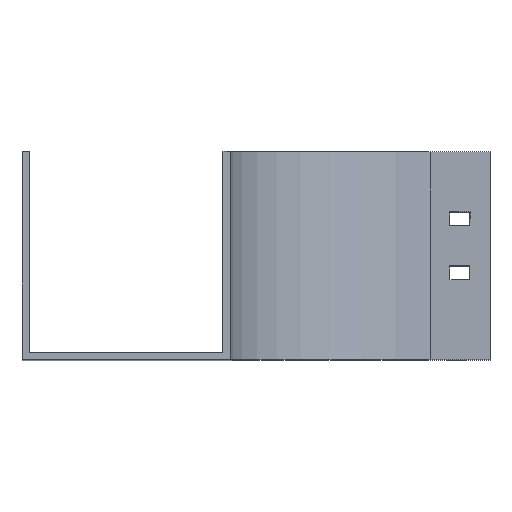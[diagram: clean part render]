
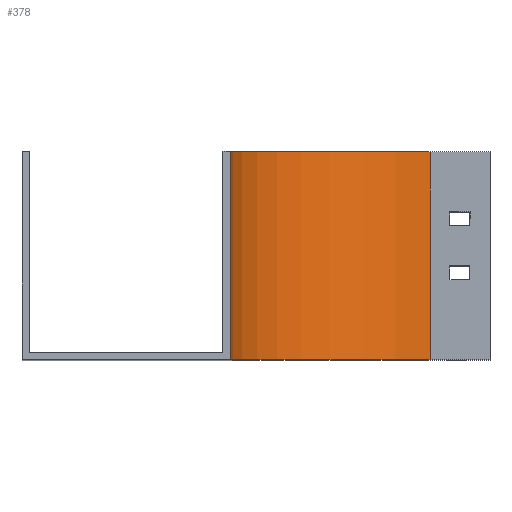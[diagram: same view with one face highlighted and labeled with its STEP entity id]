
A CAD part, top view. The second image highlights one B-rep face of the part: STEP entity #378.
In plain terms, the highlighted cylindrical face has radius 100 mm (diameter 200 mm), a partial arc.
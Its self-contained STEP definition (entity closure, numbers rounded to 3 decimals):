
#27 = ORIENTED_EDGE ( 'NONE', *, *, #1426, .F. ) ;
#39 = DIRECTION ( 'NONE',  ( 0., 0., -1. ) ) ;
#62 = DIRECTION ( 'NONE',  ( 0., -1., 0. ) ) ;
#159 = AXIS2_PLACEMENT_3D ( 'NONE', #2157, #1153, #900 ) ;
#183 = CARTESIAN_POINT ( 'NONE',  ( 0., 104., -100. ) ) ;
#241 = CIRCLE ( 'NONE', #1977, 100. ) ;
#265 = CIRCLE ( 'NONE', #159, 100. ) ;
#329 = CARTESIAN_POINT ( 'NONE',  ( 0., 0., -100. ) ) ;
#335 = LINE ( 'NONE', #1671, #633 ) ;
#378 = ADVANCED_FACE ( 'NONE', ( #665 ), #1491, .F. ) ;
#627 = CARTESIAN_POINT ( 'NONE',  ( -100., 0., 0. ) ) ;
#633 = VECTOR ( 'NONE', #2496, 1000. ) ;
#665 = FACE_OUTER_BOUND ( 'NONE', #1890, .T. ) ;
#811 = DIRECTION ( 'NONE',  ( 0., -1., 0. ) ) ;
#852 = VERTEX_POINT ( 'NONE', #329 ) ;
#888 = EDGE_CURVE ( 'NONE', #1620, #852, #265, .T. ) ;
#900 = DIRECTION ( 'NONE',  ( 0., 0., -1. ) ) ;
#965 = DIRECTION ( 'NONE',  ( 0., 0., -1. ) ) ;
#1129 = VECTOR ( 'NONE', #811, 1000. ) ;
#1153 = DIRECTION ( 'NONE',  ( 0., -1., 0. ) ) ;
#1274 = CARTESIAN_POINT ( 'NONE',  ( 0., 104., -100. ) ) ;
#1374 = EDGE_CURVE ( 'NONE', #1880, #1683, #241, .T. ) ;
#1426 = EDGE_CURVE ( 'NONE', #1683, #852, #2092, .T. ) ;
#1473 = EDGE_CURVE ( 'NONE', #1880, #1620, #335, .T. ) ;
#1491 = CYLINDRICAL_SURFACE ( 'NONE', #1963, 100. ) ;
#1521 = CARTESIAN_POINT ( 'NONE',  ( 0., 104., 0. ) ) ;
#1618 = CARTESIAN_POINT ( 'NONE',  ( -100., 104., 0. ) ) ;
#1620 = VERTEX_POINT ( 'NONE', #627 ) ;
#1671 = CARTESIAN_POINT ( 'NONE',  ( -100., 104., 0. ) ) ;
#1683 = VERTEX_POINT ( 'NONE', #1274 ) ;
#1880 = VERTEX_POINT ( 'NONE', #1618 ) ;
#1890 = EDGE_LOOP ( 'NONE', ( #2307, #27, #2124, #2454 ) ) ;
#1963 = AXIS2_PLACEMENT_3D ( 'NONE', #1521, #2155, #39 ) ;
#1977 = AXIS2_PLACEMENT_3D ( 'NONE', #2415, #62, #965 ) ;
#2092 = LINE ( 'NONE', #183, #1129 ) ;
#2124 = ORIENTED_EDGE ( 'NONE', *, *, #1374, .F. ) ;
#2155 = DIRECTION ( 'NONE',  ( 0., -1., 0. ) ) ;
#2157 = CARTESIAN_POINT ( 'NONE',  ( 0., 0., 0. ) ) ;
#2307 = ORIENTED_EDGE ( 'NONE', *, *, #888, .T. ) ;
#2415 = CARTESIAN_POINT ( 'NONE',  ( 0., 104., 0. ) ) ;
#2454 = ORIENTED_EDGE ( 'NONE', *, *, #1473, .T. ) ;
#2496 = DIRECTION ( 'NONE',  ( 0., -1., 0. ) ) ;
